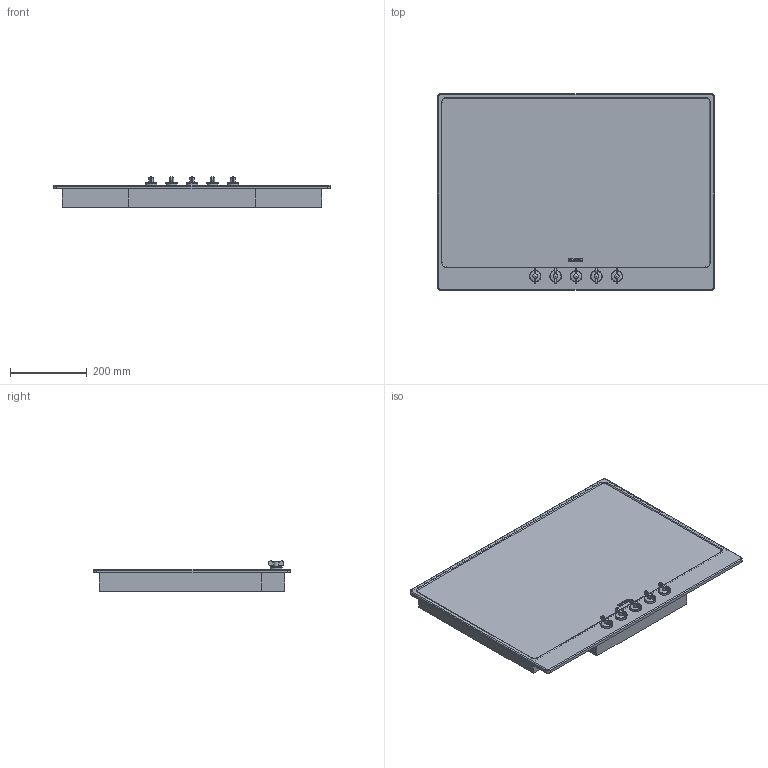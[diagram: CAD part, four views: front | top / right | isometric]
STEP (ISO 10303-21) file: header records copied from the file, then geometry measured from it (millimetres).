
FILE_DESCRIPTION(/* description */ (''),/* implementation_level */ '2;1');
FILE_NAME(/* name */ 'piano p875po.stp',/* time_stamp */ '2018-03-28T16:44:34+02:00',/* author */ (''),/* organization */ (''),/* preprocessor_version */ 'ST-DEVELOPER v16',/* originating_system */ 'SIEMENS PLM Software NX 11.0',/* authorisation */ '');
FILE_SCHEMA (('AUTOMOTIVE_DESIGN { 1 0 10303 214 3 1 1 1 }'));
Length unit declared in the file: millimetre
Products named in the file (1): gobb22CCF5C9agdn
Bounding box: 718 x 511 x 78.15 mm (x, y, z)
Volume: 17439201.4 mm3; surface area: 2149700.5 mm2
Topology: 17 solids, 17 shells, 296 faces, 714 edges, 469 vertices
Faces by surface type: plane 144, cylinder 129, torus 13, cone 5, sphere 5
Full cylindrical faces by diameter (mm): 6 x5, 12 x5, 23 x5, 30 x5
Entity records: 8454 total; most frequent: DIRECTION 1543, CARTESIAN_POINT 1418, ORIENTED_EDGE 1308, EDGE_CURVE 654, AXIS2_PLACEMENT_3D 598, VERTEX_POINT 449, EDGE_LOOP 353, LINE 347
